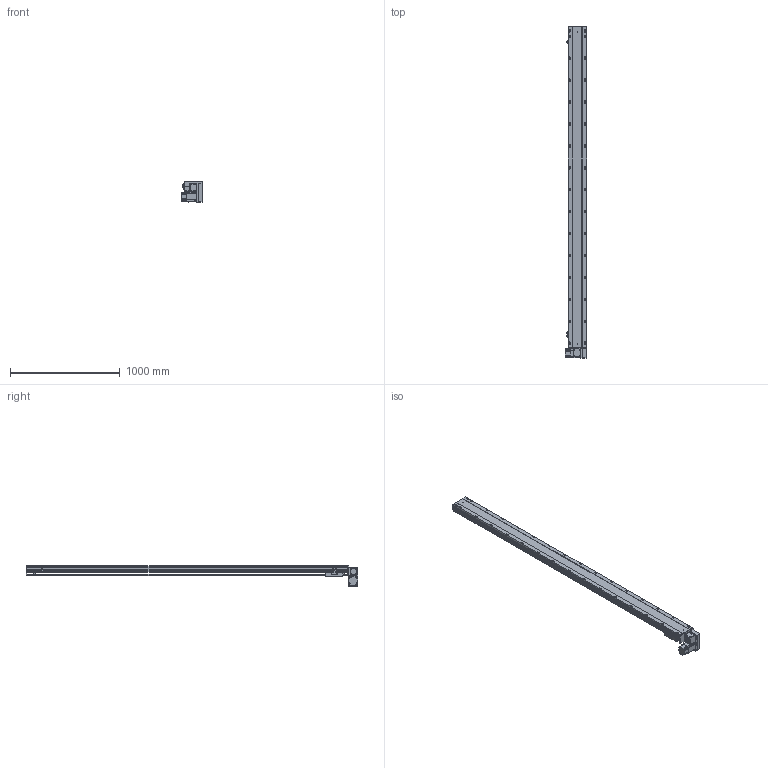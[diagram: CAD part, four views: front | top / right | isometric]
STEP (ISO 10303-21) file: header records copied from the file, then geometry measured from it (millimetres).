
FILE_DESCRIPTION (( 'STEP AP203' ), '1' );
FILE_NAME ('BTB17-L50-2650-LU-T75-C4.STEP', '2022-07-26T02:38:00', ( 'CXY' ), ( 'BT' ), 'SwSTEP 2.0', 'SolidWorks 2016', '' );
FILE_SCHEMA (( 'CONFIG_CONTROL_DESIGN' ));
Length unit declared in the file: millimetre
Products named in the file (10): BTB17-L-04; BTB17-L-24; BTB17-L-01; BTB17-L-06; T75; BTB17-L-02; BTB17-L50-2650-LU-T75-C4; BTB17-L-菁釱_XD; BTB17-L-HZ; BTB17-L-23
Assembly tree (12 placements, depth 2):
  BTB17-L50-2650-LU-T75-C4
    BTB17-L-菁釱_XD
    BTB17-L-01
    BTB17-L-04  x3
    BTB17-L-06
    BTB17-L-23  x2
    BTB17-L-24
    BTB17-L-HZ
    BTB17-L-02
    T75
Bounding box: 195.3 x 3029 x 186.5 mm (x, y, z)
Volume: 25741840.6 mm3; surface area: 3272950 mm2
Topology: 22 solids, 22 shells, 1750 faces, 4573 edges, 2876 vertices
Faces by surface type: plane 886, cylinder 648, cone 180, bspline 20, torus 16
Entity records: 45269 total; most frequent: CARTESIAN_POINT 8372, DIRECTION 7671, ORIENTED_EDGE 7234, EDGE_CURVE 3617, AXIS2_PLACEMENT_3D 2699, VERTEX_POINT 2344, LINE 2273, VECTOR 2273
